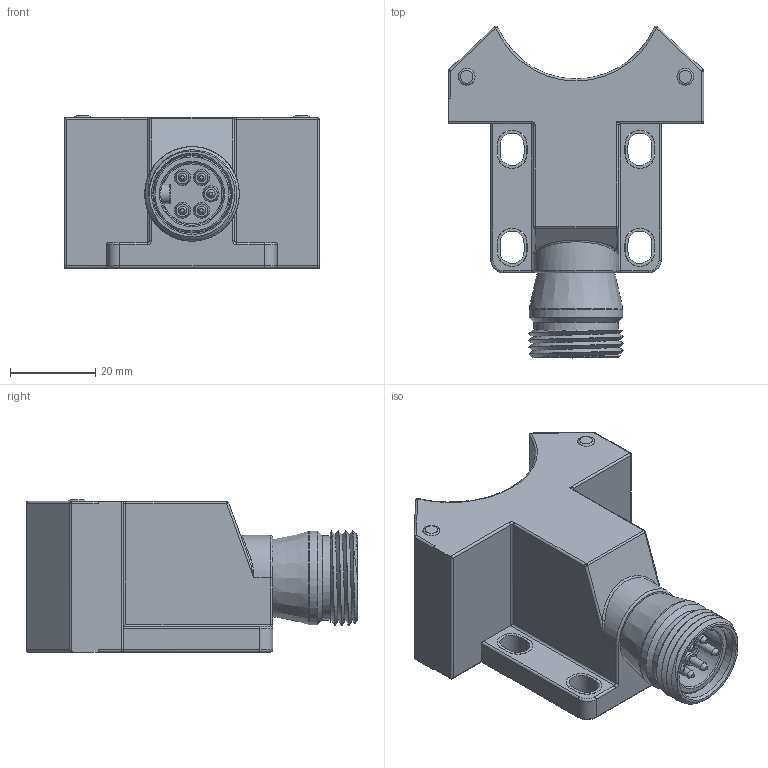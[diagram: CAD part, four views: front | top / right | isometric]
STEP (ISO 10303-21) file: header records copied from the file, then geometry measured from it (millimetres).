
FILE_DESCRIPTION((''),'2;1');
FILE_NAME('C:\TurckZip\Ni-DSU35-X2-B1.stp','2010-09-13T14:25:13',('IKOROL'),(''),'Autodesk Inventor 2010','Autodesk Inventor 2010','');
FILE_SCHEMA(('CONFIG_CONTROL_DESIGN'));
Length unit declared in the file: millimetre
Products named in the file (1): Part9
Bounding box: 60 x 77.91 x 35.7 mm (x, y, z)
Volume: 64458.4 mm3; surface area: 18936.5 mm2
Topology: 16 solids, 16 shells, 291 faces, 616 edges, 375 vertices
Faces by surface type: cylinder 123, plane 109, cone 25, torus 16, sphere 11, bspline 7
Full cylindrical faces by diameter (mm): 1.1 x5, 1.6 x5, 1.7 x5, 1.8 x5, 1.98 x5, 2 x5, 3 x10, 4 x2, 13 x2, 14 x1, 18 x1, 18.4 x1, 19.8 x1, 22 x1
Entity records: 8611 total; most frequent: CARTESIAN_POINT 2184, DIRECTION 1350, ORIENTED_EDGE 1022, AXIS2_PLACEMENT_3D 571, EDGE_CURVE 511, EDGE_LOOP 424, VERTEX_POINT 357, STYLED_ITEM 307
